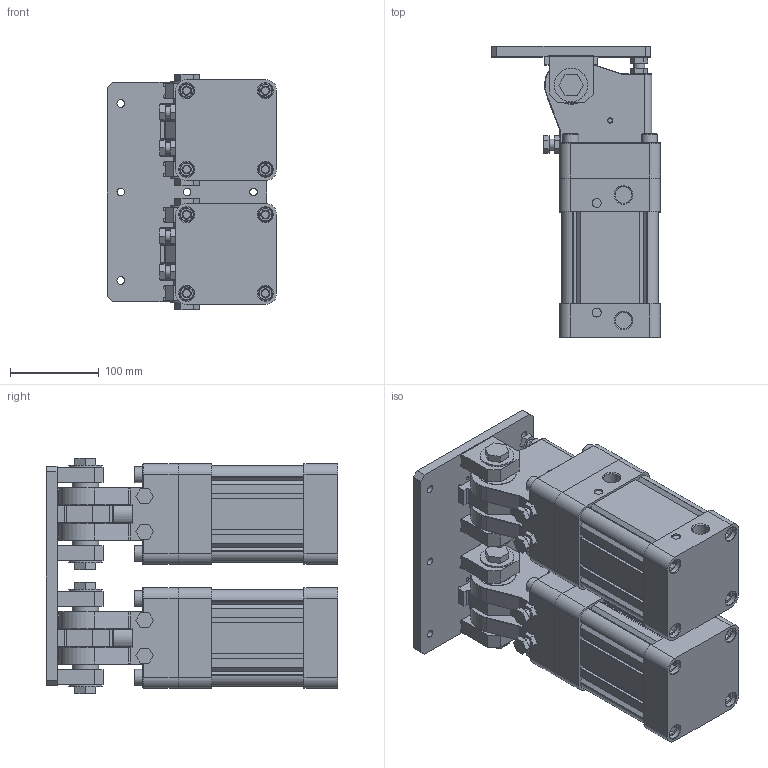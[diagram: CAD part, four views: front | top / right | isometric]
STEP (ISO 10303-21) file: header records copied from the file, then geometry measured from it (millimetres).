
FILE_DESCRIPTION(/* description */ (''),/* implementation_level */ '2;1');
FILE_NAME(/* name */ '2-DHR2C-100M65PPV-ZG-ZB.stp',/* time_stamp */ '2025-06-12T08:28:51+08:00',/* author */ (''),/* organization */ (''),/* preprocessor_version */ 'ST-DEVELOPER v15',/* originating_system */ 'SIEMENS PLM Software NX 10.0',/* authorisation */ '');
FILE_SCHEMA (('AP203_CONFIGURATION_CONTROLLED_3D_DESIGN_OF_MECHANICAL_PARTS_AND_ASSEMBLIES_MIM_LF { 1 0 10303 403 2 1 2}'));
Length unit declared in the file: millimetre
Products named in the file (1): Admi31B8C635pvwj
Bounding box: 191 x 329 x 266 mm (x, y, z)
Volume: 7017328.7 mm3; surface area: 876406.9 mm2
Topology: 67 solids, 67 shells, 1698 faces, 4025 edges, 2601 vertices
Faces by surface type: plane 972, cylinder 515, cone 191, torus 12, bspline 8
Full cylindrical faces by diameter (mm): 3.3 x4, 4.2 x8, 5 x14, 6.4 x10, 6.5 x8, 6.75 x8, 6.8 x4, 8 x12, 8.1 x4, 8.5 x29, 10 x12, 10.5 x8, 11 x32, 12 x16, 13 x12, 14 x12, 16 x8, 17 x8, 18 x8, 18.6 x4, 20 x16, 30 x8, 31 x4, 32 x2, 34 x2, 38 x4, 42 x8, 55 x2, 58 x2
Entity records: 46714 total; most frequent: CARTESIAN_POINT 8695, DIRECTION 8080, ORIENTED_EDGE 6894, EDGE_CURVE 3447, AXIS2_PLACEMENT_3D 2994, EDGE_LOOP 2478, VERTEX_POINT 2477, LINE 2092
